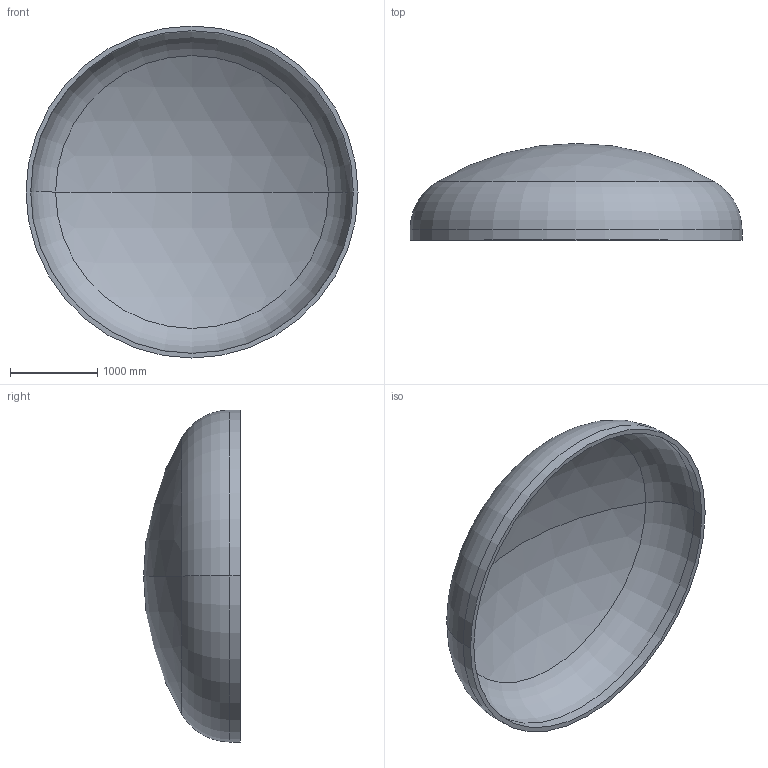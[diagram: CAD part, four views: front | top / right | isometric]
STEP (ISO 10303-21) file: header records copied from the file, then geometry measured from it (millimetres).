
FILE_DESCRIPTION (( 'STEP AP203' ), '1' );
FILE_NAME ('DIN 28013 Korbbogenform_-_Boden DIN 28013 - 3800 x 120 - I - s=54.step', '2016-07-01T21:31:11', ( '' ), ( '' ), 'SwSTEP 2.0', 'SolidWorks 2013', '' );
FILE_SCHEMA (( 'CONFIG_CONTROL_DESIGN' ));
Length unit declared in the file: millimetre
Products named in the file (1): DIN 28013 Korbbogenform_-_Boden DIN 28013 - 3800 x 120 - I - s=54
Bounding box: 3800 x 1107.6 x 3800 mm (x, y, z)
Volume: 908623864.1 mm3; surface area: 34294324.8 mm2
Topology: 1 solids, 1 shells, 13 faces, 24 edges, 14 vertices
Faces by surface type: torus 4, cylinder 4, sphere 4, plane 1
Entity records: 407 total; most frequent: DIRECTION 72, CARTESIAN_POINT 52, ORIENTED_EDGE 48, AXIS2_PLACEMENT_3D 34, EDGE_CURVE 24, CIRCLE 20, VERTEX_POINT 14, EDGE_LOOP 14
